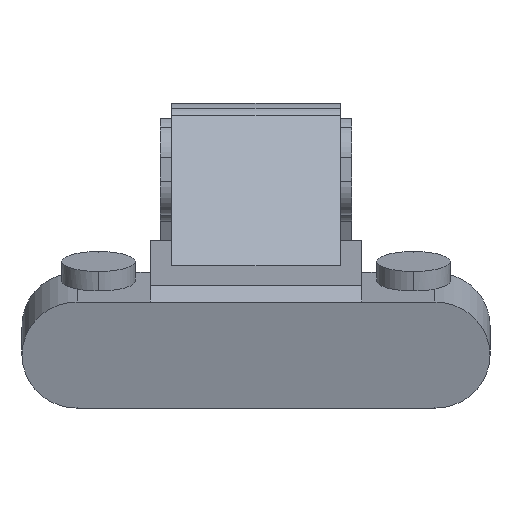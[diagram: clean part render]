
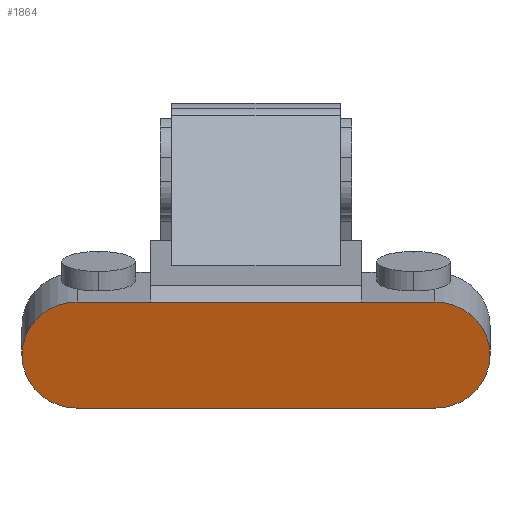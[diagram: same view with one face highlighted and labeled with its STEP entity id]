
A CAD part, top view. The second image highlights one B-rep face of the part: STEP entity #1864.
In plain terms, the highlighted planar face has unit normal (0, -0.273, 0.962).
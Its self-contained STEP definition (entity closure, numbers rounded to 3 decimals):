
#32 = DIRECTION ( 'NONE',  ( 1., 0., 0. ) ) ;
#36 = EDGE_CURVE ( 'NONE', #3907, #4941, #3934, .T. ) ;
#98 = DIRECTION ( 'NONE',  ( 0., -0.273, 0.962 ) ) ;
#168 = CARTESIAN_POINT ( 'NONE',  ( 8.5, 4.527, 12.642 ) ) ;
#178 = VERTEX_POINT ( 'NONE', #2700 ) ;
#263 = DIRECTION ( 'NONE',  ( -1., 0., 0. ) ) ;
#427 = DIRECTION ( 'NONE',  ( 1., 0., 0. ) ) ;
#451 = EDGE_CURVE ( 'NONE', #178, #2931, #728, .T. ) ;
#460 = VECTOR ( 'NONE', #3971, 1000. ) ;
#511 = FACE_OUTER_BOUND ( 'NONE', #2856, .T. ) ;
#558 = ORIENTED_EDGE ( 'NONE', *, *, #856, .T. ) ;
#728 = CIRCLE ( 'NONE', #2933, 4.9 ) ;
#856 = EDGE_CURVE ( 'NONE', #3085, #178, #5163, .T. ) ;
#994 = EDGE_CURVE ( 'NONE', #2049, #3907, #4745, .T. ) ;
#1075 = AXIS2_PLACEMENT_3D ( 'NONE', #1822, #4703, #3484 ) ;
#1124 = CARTESIAN_POINT ( 'NONE',  ( 15., -4.9, 9.963 ) ) ;
#1159 = DIRECTION ( 'NONE',  ( -1., 0., 0. ) ) ;
#1428 = AXIS2_PLACEMENT_3D ( 'NONE', #4565, #4958, #1159 ) ;
#1538 = EDGE_CURVE ( 'NONE', #2931, #3447, #5354, .T. ) ;
#1577 = CARTESIAN_POINT ( 'NONE',  ( 15., 4.527, 12.642 ) ) ;
#1759 = ORIENTED_EDGE ( 'NONE', *, *, #36, .T. ) ;
#1792 = PLANE ( 'NONE',  #1075 ) ;
#1822 = CARTESIAN_POINT ( 'NONE',  ( 15., -0.186, 11.302 ) ) ;
#1864 = ADVANCED_FACE ( 'NONE', ( #511 ), #1792, .F. ) ;
#1924 = CARTESIAN_POINT ( 'NONE',  ( -16.8, 4.527, 12.642 ) ) ;
#1935 = CARTESIAN_POINT ( 'NONE',  ( -16.8, -4.9, 9.963 ) ) ;
#1977 = EDGE_CURVE ( 'NONE', #4941, #3085, #5241, .T. ) ;
#2049 = VERTEX_POINT ( 'NONE', #1577 ) ;
#2094 = EDGE_CURVE ( 'NONE', #3447, #2049, #4437, .T. ) ;
#2130 = CARTESIAN_POINT ( 'NONE',  ( -16.8, -0.186, 11.302 ) ) ;
#2648 = ORIENTED_EDGE ( 'NONE', *, *, #451, .T. ) ;
#2700 = CARTESIAN_POINT ( 'NONE',  ( -21.7, -0.186, 11.302 ) ) ;
#2856 = EDGE_LOOP ( 'NONE', ( #5327, #3126, #4629, #1759, #3128, #558, #2648 ) ) ;
#2931 = VERTEX_POINT ( 'NONE', #4340 ) ;
#2933 = AXIS2_PLACEMENT_3D ( 'NONE', #5067, #98, #427 ) ;
#3022 = CARTESIAN_POINT ( 'NONE',  ( -10.3, 4.527, 12.642 ) ) ;
#3085 = VERTEX_POINT ( 'NONE', #1924 ) ;
#3126 = ORIENTED_EDGE ( 'NONE', *, *, #2094, .T. ) ;
#3128 = ORIENTED_EDGE ( 'NONE', *, *, #1977, .T. ) ;
#3447 = VERTEX_POINT ( 'NONE', #1124 ) ;
#3484 = DIRECTION ( 'NONE',  ( -1., 0., 0. ) ) ;
#3821 = DIRECTION ( 'NONE',  ( -1., 0., 0. ) ) ;
#3832 = DIRECTION ( 'NONE',  ( 0., -0.273, 0.962 ) ) ;
#3905 = VECTOR ( 'NONE', #263, 1000. ) ;
#3907 = VERTEX_POINT ( 'NONE', #168 ) ;
#3934 = LINE ( 'NONE', #5102, #5062 ) ;
#3971 = DIRECTION ( 'NONE',  ( -1., 0., 0. ) ) ;
#4014 = AXIS2_PLACEMENT_3D ( 'NONE', #2130, #3832, #32 ) ;
#4340 = CARTESIAN_POINT ( 'NONE',  ( -16.8, -4.9, 9.963 ) ) ;
#4359 = CARTESIAN_POINT ( 'NONE',  ( -16.8, 4.527, 12.642 ) ) ;
#4400 = CARTESIAN_POINT ( 'NONE',  ( -16.8, 4.527, 12.642 ) ) ;
#4437 = CIRCLE ( 'NONE', #1428, 4.9 ) ;
#4565 = CARTESIAN_POINT ( 'NONE',  ( 15., -0.186, 11.302 ) ) ;
#4629 = ORIENTED_EDGE ( 'NONE', *, *, #994, .T. ) ;
#4703 = DIRECTION ( 'NONE',  ( 0., 0.273, -0.962 ) ) ;
#4745 = LINE ( 'NONE', #4359, #460 ) ;
#4878 = VECTOR ( 'NONE', #5325, 1000. ) ;
#4941 = VERTEX_POINT ( 'NONE', #3022 ) ;
#4958 = DIRECTION ( 'NONE',  ( 0., -0.273, 0.962 ) ) ;
#5062 = VECTOR ( 'NONE', #3821, 1000. ) ;
#5067 = CARTESIAN_POINT ( 'NONE',  ( -16.8, -0.186, 11.302 ) ) ;
#5102 = CARTESIAN_POINT ( 'NONE',  ( 15., 4.527, 12.642 ) ) ;
#5163 = CIRCLE ( 'NONE', #4014, 4.9 ) ;
#5241 = LINE ( 'NONE', #4400, #3905 ) ;
#5325 = DIRECTION ( 'NONE',  ( 1., 0., 0. ) ) ;
#5327 = ORIENTED_EDGE ( 'NONE', *, *, #1538, .T. ) ;
#5354 = LINE ( 'NONE', #1935, #4878 ) ;
